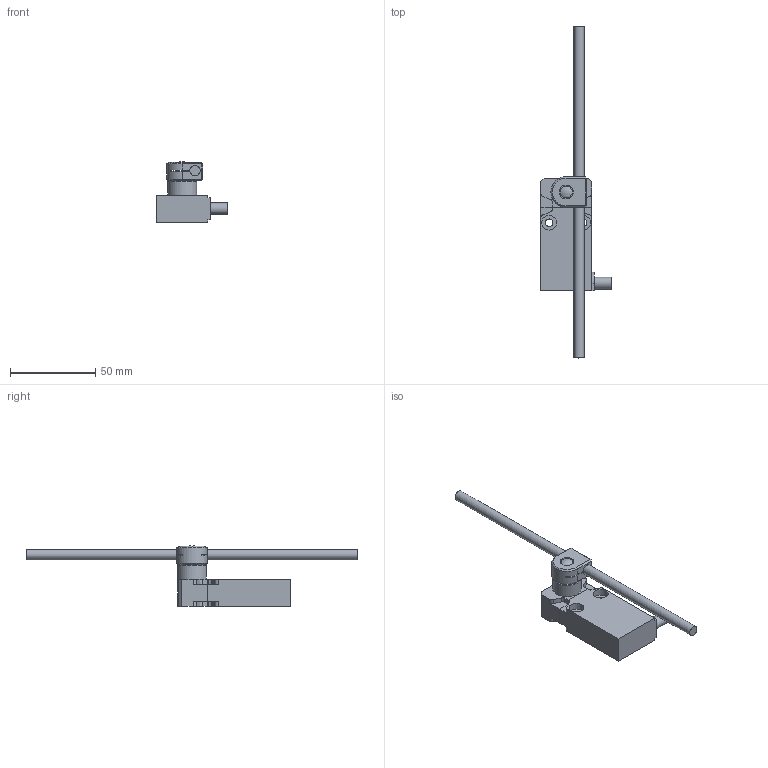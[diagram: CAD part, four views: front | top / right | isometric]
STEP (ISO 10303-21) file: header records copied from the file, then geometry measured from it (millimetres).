
FILE_DESCRIPTION(/* description */ (''),/* implementation_level */ '2;1');
FILE_NAME(/* name */ 'C:\Users\servizio.tecnico\Desktop\CADENAS\3D\EP1_STP\STP_EP1_G74U.stp',/* time_stamp */ '2017-09-01T08:48:40+02:00',/* author */ ('servizio.tecnico'),/* organization */ (''),/* preprocessor_version */ 'ST-DEVELOPER v16.1',/* originating_system */ 'Autodesk Inventor 2016',/* authorisation */ '');
FILE_SCHEMA (('AUTOMOTIVE_DESIGN { 1 0 10303 214 3 1 1 }'));
Length unit declared in the file: millimetre
Products named in the file (3): Product; EP1G74; BASE ASSI 
Assembly tree (2 placements, depth 3):
  BASE ASSI 
    EP1G74
      Product
Bounding box: 41.5 x 195 x 35.58 mm (x, y, z)
Volume: 39939.5 mm3; surface area: 15351.4 mm2
Topology: 4 solids, 4 shells, 124 faces, 309 edges, 202 vertices
Faces by surface type: plane 84, cylinder 36, cone 2, sphere 1, torus 1
Full cylindrical faces by diameter (mm): 4.4 x2, 6 x1, 7 x2, 8.2 x1, 8.7 x4, 11 x1, 17 x1
Entity records: 3731 total; most frequent: DIRECTION 632, CARTESIAN_POINT 623, ORIENTED_EDGE 588, EDGE_CURVE 294, LINE 214, VECTOR 214, AXIS2_PLACEMENT_3D 209, VERTEX_POINT 200
